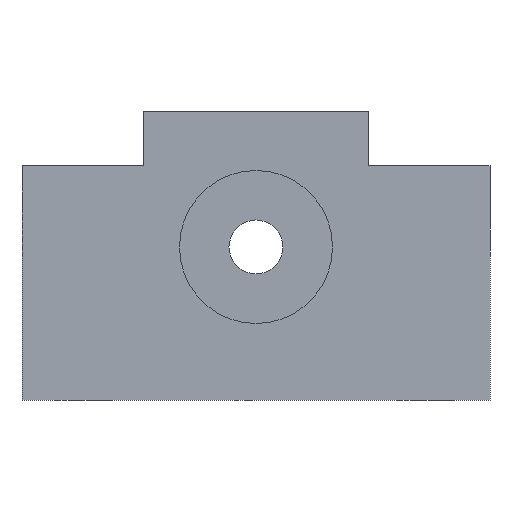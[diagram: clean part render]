
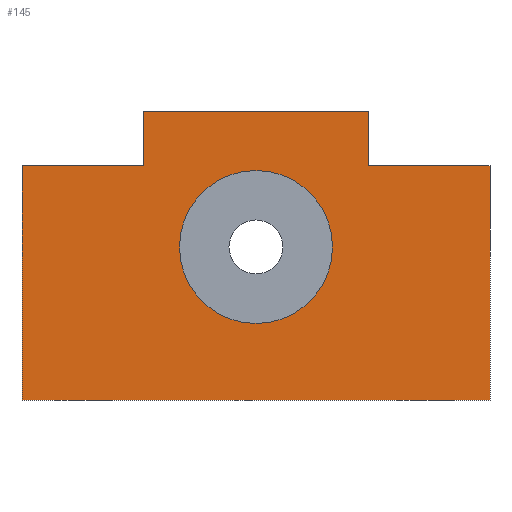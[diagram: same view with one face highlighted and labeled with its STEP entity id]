
A CAD part, left-side view. The second image highlights one B-rep face of the part: STEP entity #145.
In plain terms, the highlighted planar face has unit normal (-1, 0, 0).
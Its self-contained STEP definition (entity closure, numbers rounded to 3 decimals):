
#78=LINE('',#547,#102);
#82=LINE('',#556,#106);
#85=LINE('',#562,#109);
#86=LINE('',#564,#110);
#87=LINE('',#566,#111);
#88=LINE('',#568,#112);
#89=LINE('',#570,#113);
#90=LINE('',#572,#114);
#102=VECTOR('',#451,1.);
#106=VECTOR('',#457,1.);
#109=VECTOR('',#462,1.);
#110=VECTOR('',#463,1.);
#111=VECTOR('',#464,1.);
#112=VECTOR('',#465,1.);
#113=VECTOR('',#466,1.);
#114=VECTOR('',#467,1.);
#129=PLANE('',#408);
#145=ADVANCED_FACE('',(#176,#177),#129,.F.);
#176=FACE_BOUND('',#210,.T.);
#177=FACE_BOUND('',#211,.T.);
#210=EDGE_LOOP('',(#254,#255,#256,#257,#258,#259,#260,#261));
#211=EDGE_LOOP('',(#262));
#254=ORIENTED_EDGE('',*,*,#349,.F.);
#255=ORIENTED_EDGE('',*,*,#356,.F.);
#256=ORIENTED_EDGE('',*,*,#357,.F.);
#257=ORIENTED_EDGE('',*,*,#358,.F.);
#258=ORIENTED_EDGE('',*,*,#359,.F.);
#259=ORIENTED_EDGE('',*,*,#360,.F.);
#260=ORIENTED_EDGE('',*,*,#361,.F.);
#261=ORIENTED_EDGE('',*,*,#353,.F.);
#262=ORIENTED_EDGE('',*,*,#362,.T.);
#319=VERTEX_POINT('',#548);
#320=VERTEX_POINT('',#549);
#323=VERTEX_POINT('',#557);
#325=VERTEX_POINT('',#563);
#326=VERTEX_POINT('',#565);
#327=VERTEX_POINT('',#567);
#328=VERTEX_POINT('',#569);
#329=VERTEX_POINT('',#571);
#330=VERTEX_POINT('',#574);
#349=EDGE_CURVE('LINE',#319,#320,#78,.T.);
#353=EDGE_CURVE('LINE',#320,#323,#82,.T.);
#356=EDGE_CURVE('LINE',#325,#319,#85,.T.);
#357=EDGE_CURVE('LINE',#326,#325,#86,.T.);
#358=EDGE_CURVE('LINE',#327,#326,#87,.T.);
#359=EDGE_CURVE('LINE',#328,#327,#88,.T.);
#360=EDGE_CURVE('LINE',#329,#328,#89,.T.);
#361=EDGE_CURVE('LINE',#323,#329,#90,.T.);
#362=EDGE_CURVE('GENERATED CIRCLE',#330,#330,#387,.T.);
#387=CIRCLE('',#407,8.5);
#407=AXIS2_PLACEMENT_3D('',#573,#468,#469);
#408=AXIS2_PLACEMENT_3D('',#575,#470,#471);
#451=DIRECTION('',(0.,-1.,0.));
#457=DIRECTION('',(0.,0.,-1.));
#462=DIRECTION('',(0.,0.,-1.));
#463=DIRECTION('',(0.,-1.,0.));
#464=DIRECTION('',(0.,0.,1.));
#465=DIRECTION('',(0.,-1.,0.));
#466=DIRECTION('',(0.,0.,1.));
#467=DIRECTION('',(0.,1.,0.));
#468=DIRECTION('',(1.,0.,0.));
#469=DIRECTION('',(0.,0.,-1.));
#470=DIRECTION('',(1.,0.,0.));
#471=DIRECTION('',(0.,-1.,0.));
#547=CARTESIAN_POINT('',(-6.5,0.,26.));
#548=CARTESIAN_POINT('',(-6.5,-12.5,26.));
#549=CARTESIAN_POINT('',(-6.5,-26.,26.));
#556=CARTESIAN_POINT('',(-6.5,-26.,0.));
#557=CARTESIAN_POINT('',(-6.5,-26.,0.));
#562=CARTESIAN_POINT('',(-6.5,-12.5,0.));
#563=CARTESIAN_POINT('',(-6.5,-12.5,32.));
#564=CARTESIAN_POINT('',(-6.5,0.,32.));
#565=CARTESIAN_POINT('',(-6.5,12.5,32.));
#566=CARTESIAN_POINT('',(-6.5,12.5,0.));
#567=CARTESIAN_POINT('',(-6.5,12.5,26.));
#568=CARTESIAN_POINT('',(-6.5,0.,26.));
#569=CARTESIAN_POINT('',(-6.5,26.,26.));
#570=CARTESIAN_POINT('',(-6.5,26.,0.));
#571=CARTESIAN_POINT('',(-6.5,26.,0.));
#572=CARTESIAN_POINT('',(-6.5,0.,0.));
#573=CARTESIAN_POINT('',(-6.5,0.,17.));
#574=CARTESIAN_POINT('',(-6.5,0.,8.5));
#575=CARTESIAN_POINT('',(-6.5,0.,0.));
